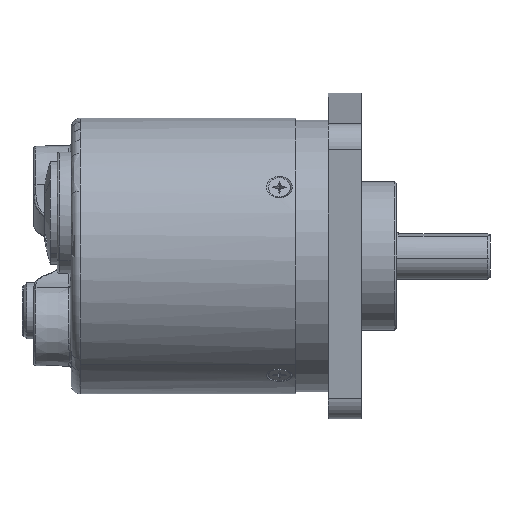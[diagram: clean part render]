
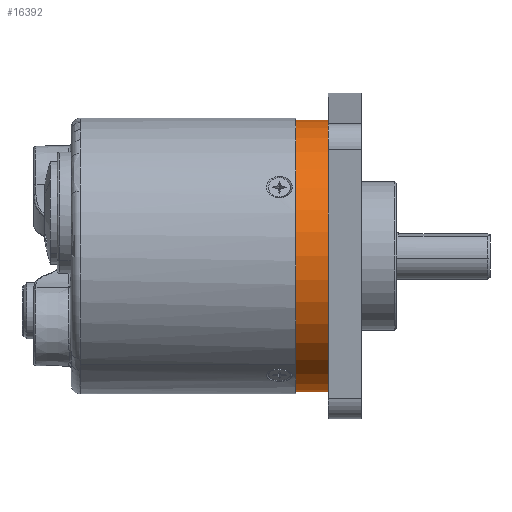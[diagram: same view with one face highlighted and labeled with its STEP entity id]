
A CAD part, front view. The second image highlights one B-rep face of the part: STEP entity #16392.
In plain terms, the highlighted cylindrical face has radius 29 mm (diameter 58 mm), a partial arc.
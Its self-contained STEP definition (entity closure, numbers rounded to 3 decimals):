
#3716 = DIRECTION ( 'NONE',  ( -1., 0., 0. ) ) ;
#4216 = CARTESIAN_POINT ( 'NONE',  ( 7.5, 0., -29. ) ) ;
#9350 = VERTEX_POINT ( 'NONE', #65912 ) ;
#11148 = VECTOR ( 'NONE', #75765, 1000. ) ;
#11659 = VERTEX_POINT ( 'NONE', #34721 ) ;
#12354 = DIRECTION ( 'NONE',  ( -1., 0., 0. ) ) ;
#13873 = EDGE_CURVE ( 'NONE', #9350, #47773, #34352, .T. ) ;
#15741 = EDGE_LOOP ( 'NONE', ( #75327, #30216, #41086, #44188 ) ) ;
#15960 = FACE_OUTER_BOUND ( 'NONE', #15741, .T. ) ;
#16392 = ADVANCED_FACE ( 'NONE', ( #15960 ), #53780, .T. ) ;
#23248 = CIRCLE ( 'NONE', #31749, 29. ) ;
#23371 = DIRECTION ( 'NONE',  ( -1., 0., 0. ) ) ;
#23635 = CARTESIAN_POINT ( 'NONE',  ( 7.5, 0., 0. ) ) ;
#26346 = DIRECTION ( 'NONE',  ( 0., 0., 1. ) ) ;
#27907 = AXIS2_PLACEMENT_3D ( 'NONE', #65855, #23371, #72945 ) ;
#30216 = ORIENTED_EDGE ( 'NONE', *, *, #13873, .T. ) ;
#30783 = DIRECTION ( 'NONE',  ( 0., 0., 1. ) ) ;
#31749 = AXIS2_PLACEMENT_3D ( 'NONE', #23635, #73204, #30783 ) ;
#33334 = CARTESIAN_POINT ( 'NONE',  ( -1.393, 0., 29. ) ) ;
#33737 = VECTOR ( 'NONE', #3716, 1000. ) ;
#34352 = CIRCLE ( 'NONE', #27907, 29. ) ;
#34721 = CARTESIAN_POINT ( 'NONE',  ( 7.5, 0., 29. ) ) ;
#35903 = EDGE_CURVE ( 'NONE', #41957, #11659, #23248, .T. ) ;
#38331 = EDGE_CURVE ( 'NONE', #9350, #41957, #90416, .T. ) ;
#41002 = AXIS2_PLACEMENT_3D ( 'NONE', #62013, #12354, #26346 ) ;
#41086 = ORIENTED_EDGE ( 'NONE', *, *, #46781, .T. ) ;
#41957 = VERTEX_POINT ( 'NONE', #4216 ) ;
#44188 = ORIENTED_EDGE ( 'NONE', *, *, #35903, .F. ) ;
#46442 = CARTESIAN_POINT ( 'NONE',  ( -1.393, 0., -29. ) ) ;
#46781 = EDGE_CURVE ( 'NONE', #47773, #11659, #49064, .T. ) ;
#47773 = VERTEX_POINT ( 'NONE', #78393 ) ;
#49064 = LINE ( 'NONE', #33334, #11148 ) ;
#53780 = CYLINDRICAL_SURFACE ( 'NONE', #41002, 29. ) ;
#62013 = CARTESIAN_POINT ( 'NONE',  ( -1.393, 0., 0. ) ) ;
#65855 = CARTESIAN_POINT ( 'NONE',  ( 14.4, 0., 0. ) ) ;
#65912 = CARTESIAN_POINT ( 'NONE',  ( 14.4, 0., -29. ) ) ;
#72945 = DIRECTION ( 'NONE',  ( 0., 0., 1. ) ) ;
#73204 = DIRECTION ( 'NONE',  ( -1., 0., 0. ) ) ;
#75327 = ORIENTED_EDGE ( 'NONE', *, *, #38331, .F. ) ;
#75765 = DIRECTION ( 'NONE',  ( -1., 0., 0. ) ) ;
#78393 = CARTESIAN_POINT ( 'NONE',  ( 14.4, 0., 29. ) ) ;
#90416 = LINE ( 'NONE', #46442, #33737 ) ;
